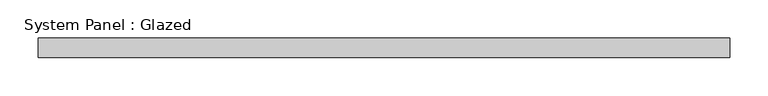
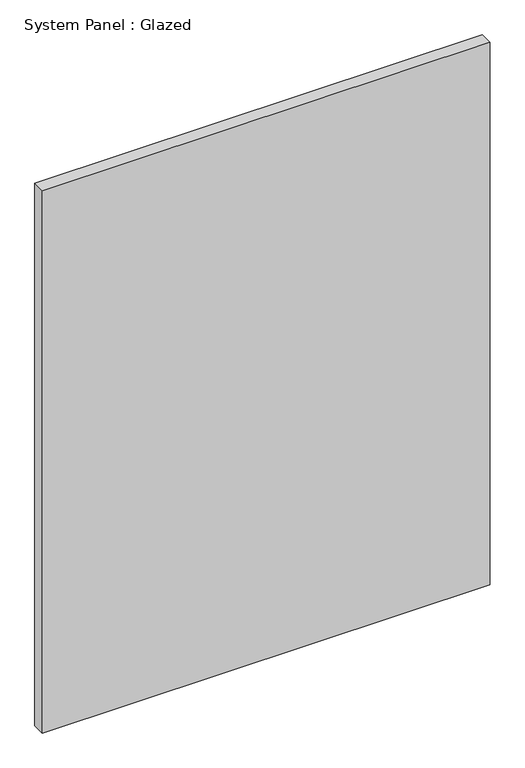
"""IFC4 building model written with IfcOpenShell, lengths in millimetres: plate geometry, System Panel : Glazed."""

from ifc_helpers import new_model, si_unit, origin, origin_with_axes, place, context, project, spatial, polyline, outline, extrude, source, transform, mapped, element, save


def system_panel_glazed_f1ae0be2(model_context):
    return source(origin(), model_context, "Body", "SweptSolid", [
        extrude(outline(polyline([(451.3791667, -44.45), (-451.3791667, -44.45), (-451.3791667, -19.05), (451.3791667, -19.05), (451.3791667, -44.45)])), origin_with_axes(), (0.0, 0.0, 1.0), 1155.7),
    ])


if __name__ == "__main__":
    model = new_model("IFC4")
    model_context = context("Model", 3, world=origin())
    ifc_project = project(units=[si_unit("LENGTHUNIT", "METRE", prefix="MILLI")], contexts=[model_context])
    site = spatial("IfcSite", under=ifc_project)
    building = spatial("IfcBuilding", under=site)
    placement = place(None, origin())
    system_panel_glazed_shape = system_panel_glazed_f1ae0be2(model_context)
    element("IfcPlate", 1, ObjectType="System Panel : Glazed", at=placement, inside=building, context=model_context, shape_type="MappedRepresentation", body=[
        mapped(system_panel_glazed_shape, transform((0.0, 0.0, 0.0), x_axis=(1.0, 0.0, 0.0), y_axis=(0.0, 1.0, 0.0), z_axis=(0.0, 0.0, 1.0))),
    ])
    save(model, "model.ifc")
